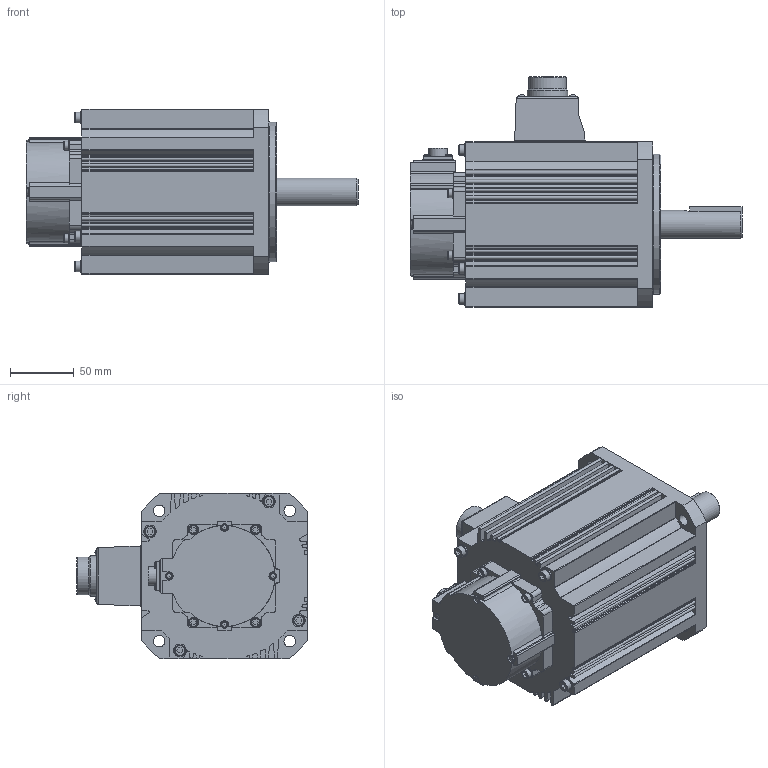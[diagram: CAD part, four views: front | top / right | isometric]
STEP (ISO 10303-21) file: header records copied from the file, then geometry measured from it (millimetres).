
FILE_DESCRIPTION( ( 'STEP AP214' ), '1' );
FILE_NAME( 'e:/temp/worker_115/temp/exporttempdir_7128_1384_tiOmE/format_0/MHMF152L1H5 2JN2.stp', '2022-04-08T06:49:04', ( 'License CC BY-ND 4.0' ), ( 'CADENAS' ), ' ', 'PARTsolutions', ' ' );
FILE_SCHEMA( ( 'AUTOMOTIVE_DESIGN { 1 0 10303 214 1 1 1 1 }' ) );
Length unit declared in the file: millimetre
Products named in the file (2): MHMF152L1H5 2JN2; _MHMF152L1H5 _body
Assembly tree (1 placements, depth 2):
  MHMF152L1H5 2JN2
    _MHMF152L1H5 _body
Bounding box: 261 x 181 x 130 mm (x, y, z)
Volume: 2565492.2 mm3; surface area: 163787.7 mm2
Topology: 1 solids, 1 shells, 540 faces, 1458 edges, 949 vertices
Faces by surface type: plane 260, cylinder 229, cone 22, torus 13, sphere 12, bspline 4
Full cylindrical faces by diameter (mm): 2.459 x1, 7 x4, 8 x4, 8.5 x4, 9 x4, 10 x4, 14.8 x1, 22 x1, 29.75 x1, 31.9 x1, 34 x1, 38 x1, 45 x1, 102 x1, 110 x1
Entity records: 21077 total; most frequent: CARTESIAN_POINT 3218, DIRECTION 2907, ORIENTED_EDGE 2702, EDGE_CURVE 1351, AXIS2_PLACEMENT_3D 1053, VERTEX_POINT 930, LINE 801, VECTOR 801
